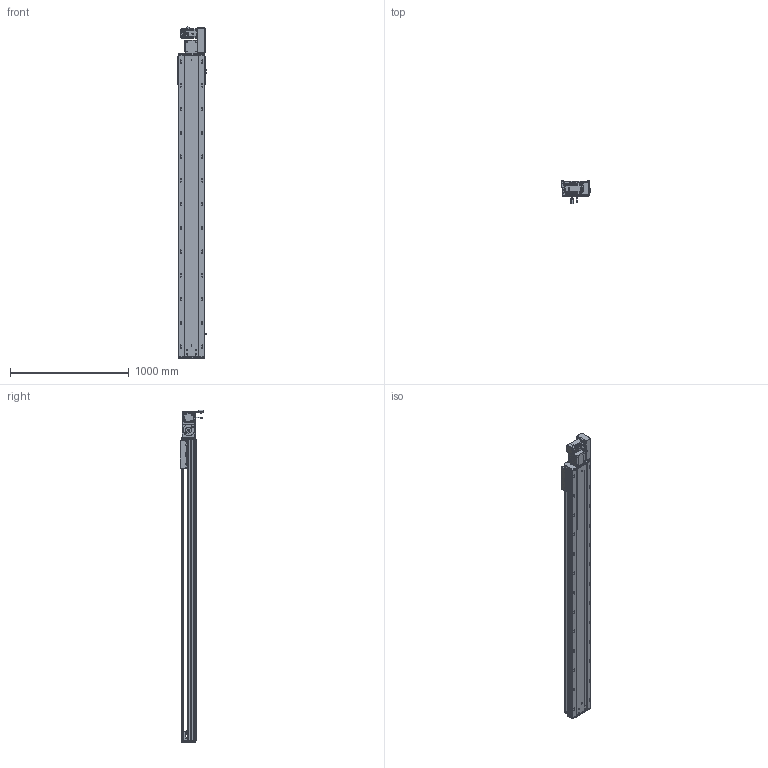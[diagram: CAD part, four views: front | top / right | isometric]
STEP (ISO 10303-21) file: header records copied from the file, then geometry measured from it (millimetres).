
FILE_DESCRIPTION (( 'STEP AP203' ), '1' );
FILE_NAME ('RY220-T-300-RK.SLDASM_2200.step', '2022-07-25T08:24:41', ( '' ), ( '' ), 'SwSTEP 2.0', 'SolidWorks 2016', '' );
FILE_SCHEMA (( 'CONFIG_CONTROL_DESIGN' ));
Length unit declared in the file: millimetre
Products named in the file (14): 滅袉蝶18-15; RY220-T-300-RK.SLDASM_2200; RY220-T-蛌殏萇儂假蚾啣(750W); RY220-T-300-奻裔啣_2200; RY220翋肮祭謫釱; RY220-同步轮副支撑座6304×2; RY220圉猾敕々湍臏賑輸; 110A-T-肮祭謫釱傷裔; RY220-T菁釱-300_2200; 怢湛750W_ECMA-CX0807ES; RY220-俋离672覜茼んえ; RY220翋肮祭謫裔啣; RY220-T-湍謫欶(鍼踢); 覜茼ん672
Assembly tree (18 placements, depth 2):
  RY220-T-300-RK.SLDASM_2200
    RY220-T菁釱-300_2200
    RY220翋肮祭謫釱
    覜茼ん672  x3
    RY220圉猾敕々湍臏賑輸
    RY220-T-300-奻裔啣_2200
    RY220-俋离672覜茼んえ
    滅袉蝶18-15  x3
    RY220翋肮祭謫裔啣  x2
    110A-T-肮祭謫釱傷裔
    怢湛750W_ECMA-CX0807ES
    RY220-T-湍謫欶(鍼踢)
    RY220-T-蛌殏萇儂假蚾啣(750W)
    RY220-同步轮副支撑座6304×2
Bounding box: 238.7 x 198.77 x 2795.24 mm (x, y, z)
Volume: 20027861.2 mm3; surface area: 6111368.1 mm2
Topology: 19 solids, 19 shells, 2868 faces, 7923 edges, 4982 vertices
Faces by surface type: cylinder 1388, plane 1069, cone 329, bspline 56, sphere 16, torus 10
Entity records: 95475 total; most frequent: CARTESIAN_POINT 27009, ORIENTED_EDGE 14170, DIRECTION 13588, EDGE_CURVE 7085, AXIS2_PLACEMENT_3D 4870, VERTEX_POINT 4606, VECTOR 3848, LINE 3848
